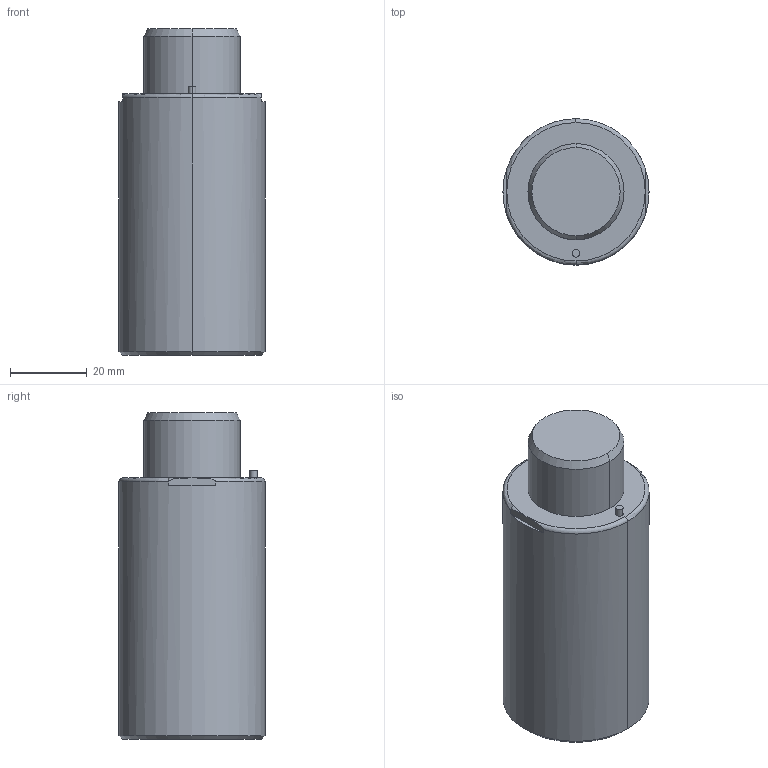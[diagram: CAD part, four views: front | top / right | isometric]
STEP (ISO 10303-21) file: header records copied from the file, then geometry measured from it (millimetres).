
FILE_DESCRIPTION(/* description */ (''),/* implementation_level */ '2;1');
FILE_NAME(/* name */ '3d_gsx38-15_03990_r00.stp',/* time_stamp */ '2011-01-10T14:15:13+09:00',/* author */ ('MISUMI'),/* organization */ (''),/* preprocessor_version */ 'ST-DEVELOPER v11',/* originating_system */ 'UGS - NX 5.0',/* authorisation */ '');
FILE_SCHEMA (('CONFIG_CONTROL_DESIGN'));
Length unit declared in the file: millimetre
Products named in the file (1): 3d_gsx38-15_03990_r00
Bounding box: 38 x 38 x 85 mm (x, y, z)
Volume: 83401.6 mm3; surface area: 12842 mm2
Topology: 1 solids, 1 shells, 59 faces, 128 edges, 76 vertices
Faces by surface type: cylinder 28, plane 15, cone 12, torus 4
Entity records: 1718 total; most frequent: CARTESIAN_POINT 328, DIRECTION 306, ORIENTED_EDGE 240, AXIS2_PLACEMENT_3D 130, EDGE_CURVE 120, VERTEX_POINT 76, EDGE_LOOP 72, CIRCLE 70
